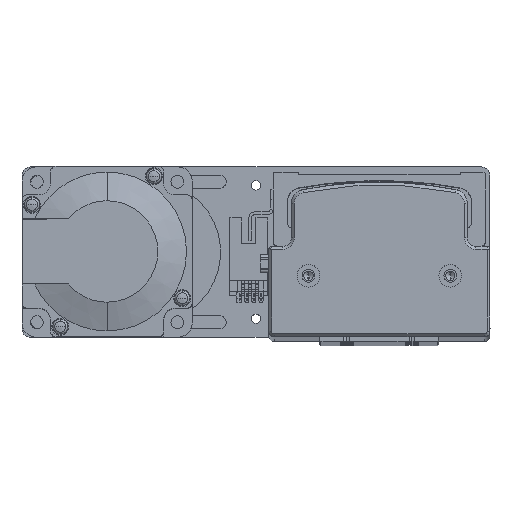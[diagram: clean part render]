
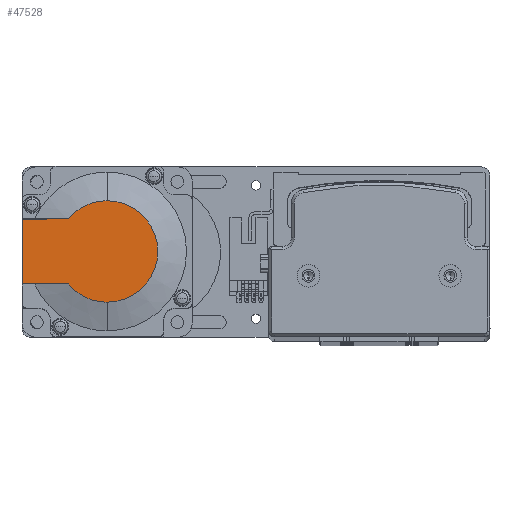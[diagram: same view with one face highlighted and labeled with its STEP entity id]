
A CAD part, top view. The second image highlights one B-rep face of the part: STEP entity #47528.
In plain terms, the highlighted planar face has unit normal (0, 0, 1) as drawn and (-1, 0, 0) by its records, which use the part's own axes.
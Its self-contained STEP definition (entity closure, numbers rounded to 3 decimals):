
#894 = ORIENTED_EDGE ( 'NONE', *, *, #43603, .T. ) ;
#1850 = ORIENTED_EDGE ( 'NONE', *, *, #33710, .F. ) ;
#2990 = CARTESIAN_POINT ( 'NONE',  ( -118.5, 0., -17.881 ) ) ;
#3136 = DIRECTION ( 'NONE',  ( 0., 0., 1. ) ) ;
#4005 = PLANE ( 'NONE',  #36149 ) ;
#4596 = DIRECTION ( 'NONE',  ( -1., 0., 0. ) ) ;
#4767 = DIRECTION ( 'NONE',  ( 0., -1., 0. ) ) ;
#5376 = VECTOR ( 'NONE', #3136, 1000. ) ;
#5623 = CIRCLE ( 'NONE', #36915, 17.881 ) ;
#6889 = VERTEX_POINT ( 'NONE', #36287 ) ;
#7159 = DIRECTION ( 'NONE',  ( 0., -1., 0. ) ) ;
#9781 = LINE ( 'NONE', #34212, #20993 ) ;
#10321 = VERTEX_POINT ( 'NONE', #15237 ) ;
#10649 = ORIENTED_EDGE ( 'NONE', *, *, #41548, .T. ) ;
#10897 = CARTESIAN_POINT ( 'NONE',  ( -118.5, 30., -11.45 ) ) ;
#10983 = LINE ( 'NONE', #53255, #30805 ) ;
#11621 = EDGE_CURVE ( 'NONE', #37914, #25246, #48762, .T. ) ;
#12050 = CARTESIAN_POINT ( 'NONE',  ( -118.5, 0., 0. ) ) ;
#14140 = CARTESIAN_POINT ( 'NONE',  ( -118.5, 0., 0. ) ) ;
#15237 = CARTESIAN_POINT ( 'NONE',  ( -118.5, 13.735, -11.45 ) ) ;
#16297 = DIRECTION ( 'NONE',  ( 0., 0., -1. ) ) ;
#16392 = EDGE_LOOP ( 'NONE', ( #894, #52964, #10649, #49823, #1850, #36022 ) ) ;
#17162 = VERTEX_POINT ( 'NONE', #25643 ) ;
#18381 = DIRECTION ( 'NONE',  ( 0., 0., -1. ) ) ;
#20958 = CARTESIAN_POINT ( 'NONE',  ( -118.5, -8.941, 0. ) ) ;
#20993 = VECTOR ( 'NONE', #4767, 1000. ) ;
#25246 = VERTEX_POINT ( 'NONE', #44379 ) ;
#25252 = DIRECTION ( 'NONE',  ( 0., 0., 1. ) ) ;
#25254 = EDGE_CURVE ( 'NONE', #6889, #17162, #5623, .T. ) ;
#25643 = CARTESIAN_POINT ( 'NONE',  ( -118.5, 13.735, 11.45 ) ) ;
#26754 = AXIS2_PLACEMENT_3D ( 'NONE', #29869, #4596, #34072 ) ;
#29869 = CARTESIAN_POINT ( 'NONE',  ( -118.5, 0., 0. ) ) ;
#29957 = AXIS2_PLACEMENT_3D ( 'NONE', #14140, #43510, #18381 ) ;
#30805 = VECTOR ( 'NONE', #7159, 1000. ) ;
#33710 = EDGE_CURVE ( 'NONE', #25246, #17162, #9781, .T. ) ;
#34072 = DIRECTION ( 'NONE',  ( 0., 0., -1. ) ) ;
#34212 = CARTESIAN_POINT ( 'NONE',  ( -118.5, 0., 11.45 ) ) ;
#35731 = EDGE_CURVE ( 'NONE', #10321, #54223, #46008, .T. ) ;
#36022 = ORIENTED_EDGE ( 'NONE', *, *, #11621, .F. ) ;
#36149 = AXIS2_PLACEMENT_3D ( 'NONE', #20958, #50336, #25252 ) ;
#36287 = CARTESIAN_POINT ( 'NONE',  ( -118.5, 0., 17.881 ) ) ;
#36915 = AXIS2_PLACEMENT_3D ( 'NONE', #12050, #41460, #16297 ) ;
#37277 = CIRCLE ( 'NONE', #26754, 17.881 ) ;
#37914 = VERTEX_POINT ( 'NONE', #10897 ) ;
#41460 = DIRECTION ( 'NONE',  ( -1., 0., 0. ) ) ;
#41548 = EDGE_CURVE ( 'NONE', #54223, #6889, #37277, .T. ) ;
#43510 = DIRECTION ( 'NONE',  ( -1., 0., 0. ) ) ;
#43603 = EDGE_CURVE ( 'NONE', #37914, #10321, #10983, .T. ) ;
#44379 = CARTESIAN_POINT ( 'NONE',  ( -118.5, 30., 11.45 ) ) ;
#46008 = CIRCLE ( 'NONE', #29957, 17.881 ) ;
#47528 = ADVANCED_FACE ( 'NONE', ( #52601 ), #4005, .T. ) ;
#48762 = LINE ( 'NONE', #53473, #5376 ) ;
#49823 = ORIENTED_EDGE ( 'NONE', *, *, #25254, .T. ) ;
#50336 = DIRECTION ( 'NONE',  ( -1., 0., 0. ) ) ;
#52601 = FACE_OUTER_BOUND ( 'NONE', #16392, .T. ) ;
#52964 = ORIENTED_EDGE ( 'NONE', *, *, #35731, .T. ) ;
#53255 = CARTESIAN_POINT ( 'NONE',  ( -118.5, -8.941, -11.45 ) ) ;
#53473 = CARTESIAN_POINT ( 'NONE',  ( -118.5, 30., 25. ) ) ;
#54223 = VERTEX_POINT ( 'NONE', #2990 ) ;
